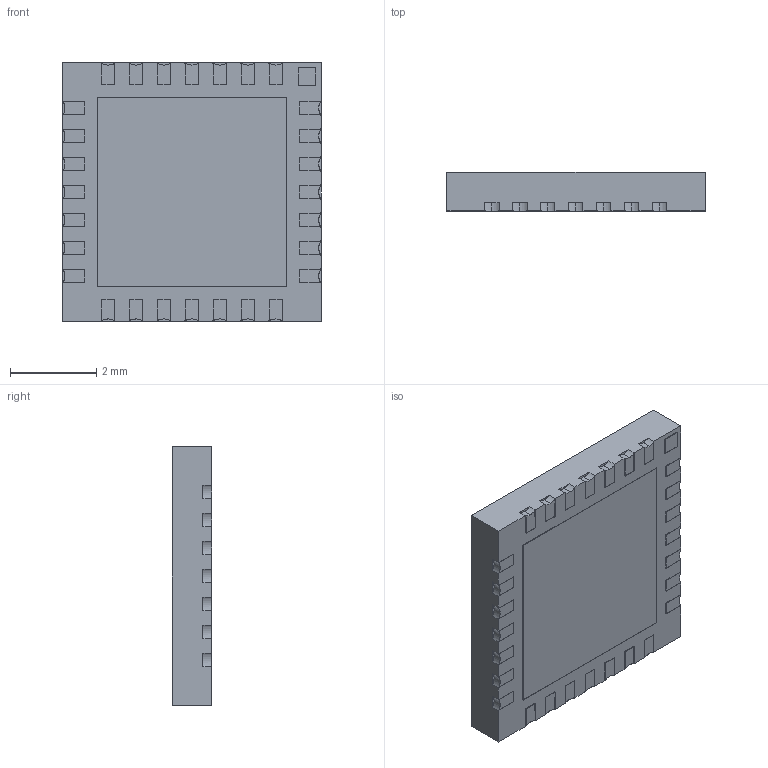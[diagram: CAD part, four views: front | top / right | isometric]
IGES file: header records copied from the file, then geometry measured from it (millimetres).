
Start section: SolidWorks IGES file using analytic representation for surfaces
Global section: file name: D:\Dokumenti\dokumentacija-mehanskih-delov-RLSizdelkov-\3D-izdelki-za-predstavitev\IC-QFN28-AM256Q.IGS; native system: SolidWorks 2010; preprocessor: SolidWorks 2010; author: cerar; date: 110530.155530; units: millimetre
Bounding box: 6 x 0.91 x 6 mm (x, y, z)
Surface area: 115.4 mm2 (no closed solid volume)
Topology: 0 solids, 0 shells, 200 faces, 1333 edges, 1333 vertices
Faces by surface type: bspline 163, revolution 37
